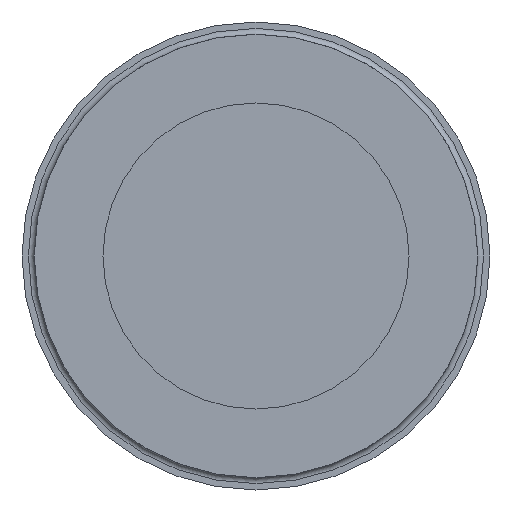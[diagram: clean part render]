
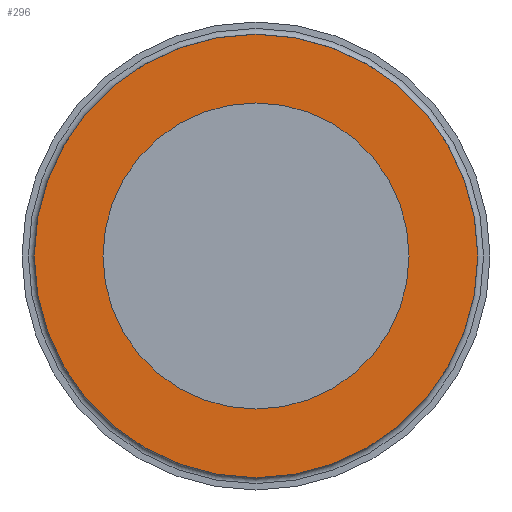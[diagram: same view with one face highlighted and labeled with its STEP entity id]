
A CAD part, left-side view. The second image highlights one B-rep face of the part: STEP entity #296.
In plain terms, the highlighted planar face has unit normal (-1, 0, 0).
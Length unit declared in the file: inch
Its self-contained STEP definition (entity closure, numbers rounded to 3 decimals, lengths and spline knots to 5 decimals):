
#296 = ADVANCED_FACE( '', ( #769, #770 ), #771, .F. );
#769 = FACE_BOUND( '', #1684, .T. );
#770 = FACE_OUTER_BOUND( '', #1685, .T. );
#771 = PLANE( '', #1686 );
#1684 = EDGE_LOOP( '', ( #3471 ) );
#1685 = EDGE_LOOP( '', ( #3472 ) );
#1686 = AXIS2_PLACEMENT_3D( '', #3473, #3474, #3475 );
#3471 = ORIENTED_EDGE( '', *, *, #5079, .F. );
#3472 = ORIENTED_EDGE( '', *, *, #5080, .T. );
#3473 = CARTESIAN_POINT( '', ( 0.56769, 0., 0.69252 ) );
#3474 = DIRECTION( '', ( 1., 0., 0. ) );
#3475 = DIRECTION( '', ( 0., 0., -1. ) );
#5079 = EDGE_CURVE( '', #5894, #5894, #5895, .T. );
#5080 = EDGE_CURVE( '', #5896, #5896, #5897, .T. );
#5894 = VERTEX_POINT( '', #7362 );
#5895 = CIRCLE( '', #7363, 0.6925 );
#5896 = VERTEX_POINT( '', #7364 );
#5897 = CIRCLE( '', #7365, 1.1845 );
#7362 = CARTESIAN_POINT( '', ( 0.56769, 0., 0.69252 ) );
#7363 = AXIS2_PLACEMENT_3D( '', #9286, #9287, #9288 );
#7364 = CARTESIAN_POINT( '', ( 0.56769, 0., 1.18452 ) );
#7365 = AXIS2_PLACEMENT_3D( '', #9289, #9290, #9291 );
#9286 = CARTESIAN_POINT( '', ( 0.56769, 0., 0.00002 ) );
#9287 = DIRECTION( '', ( -1., 0., 0. ) );
#9288 = DIRECTION( '', ( 0., 0., 1. ) );
#9289 = CARTESIAN_POINT( '', ( 0.56769, 0., 0.00002 ) );
#9290 = DIRECTION( '', ( -1., 0., 0. ) );
#9291 = DIRECTION( '', ( 0., 0., 1. ) );
